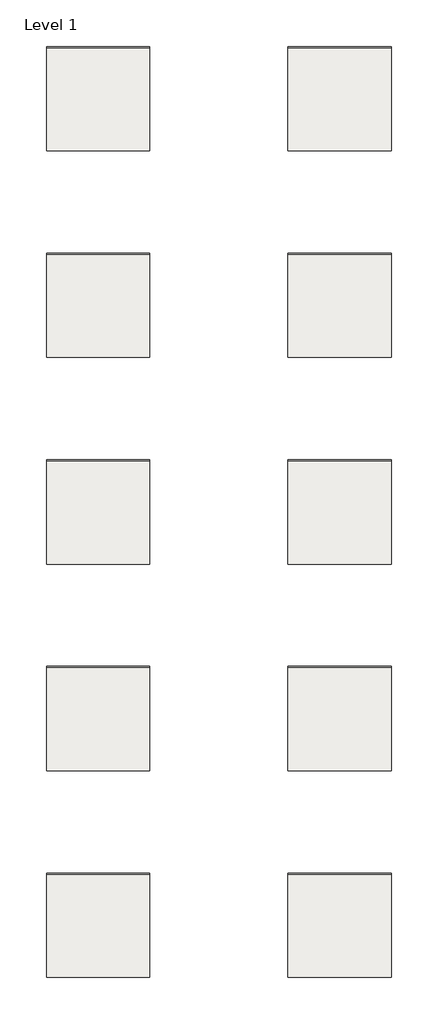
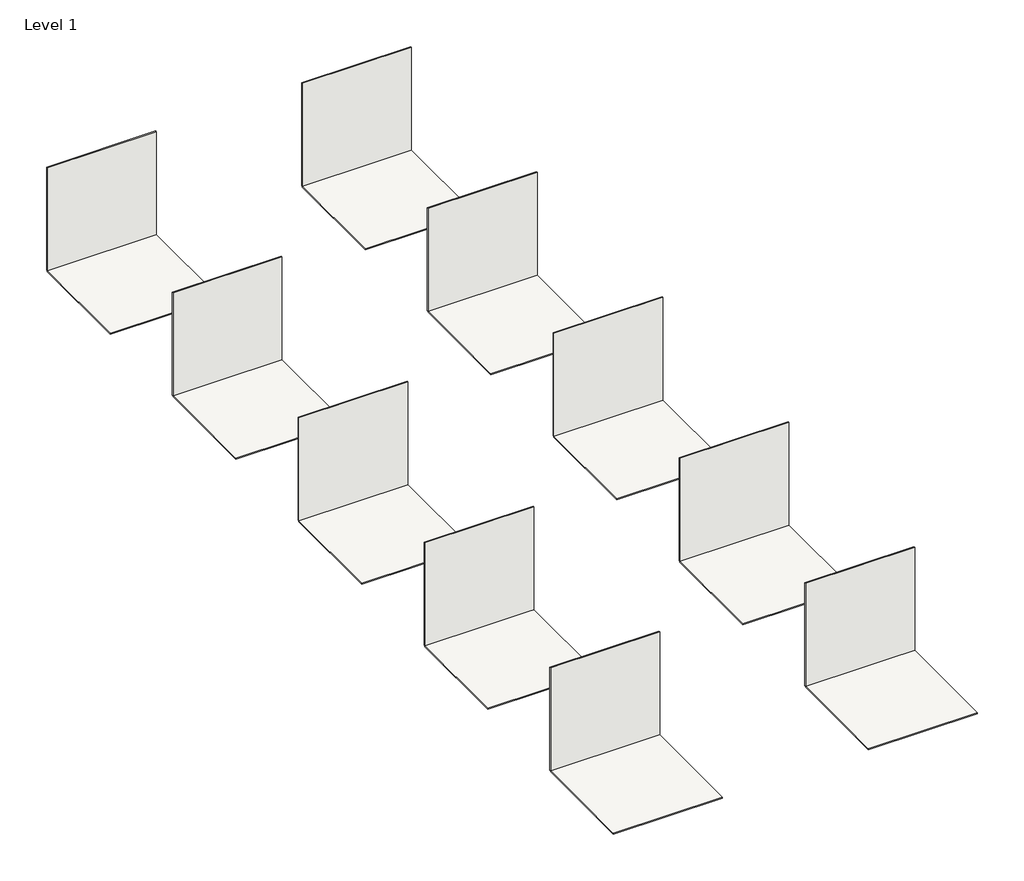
# One storey: 20 coverings.
"""IFC4 building model written with IfcOpenShell, lengths in millimetres."""

from ifc_helpers import new_model, si_unit, frame, origin, origin_with_axes, place, context, project, spatial, polyline, outline, extrude, element, save

model = new_model("IFC4")

# Units and contexts
model_context = context("Model", 3, world=origin())
ifc_project = project(units=[si_unit("LENGTHUNIT", "METRE", prefix="MILLI")], contexts=[model_context])

# Site, building, storey
site = spatial("IfcSite", under=ifc_project)
building = spatial("IfcBuilding", under=site)
storey = spatial("IfcBuildingStorey", under=building, Name="Level 1", Elevation=0.0)

# Coverings
placement = place(None, origin())
element("IfcCovering", 1, ObjectType="REVIGRES-TRAVERTINO CLASSIC-BASE-59.2x59.2-MATTRECT-OFFWHITE", at=placement, inside=storey, context=model_context, shape_type="SweptSolid", body=[
    extrude(outline(polyline([(14667.386446, 2342.0116985), (13667.386446, 2342.0116985), (13667.386446, 2351.8116985), (14667.386446, 2351.8116985), (14667.386446, 2342.0116985)])), origin_with_axes(), (0.0, 0.0, 1.0), 1000.0),
])
element("IfcCovering", 2, ObjectType="REVIGRES-TRAVERTINO CLASSIC-BASE-59.2x59.2-MATTRECT-OFFWHITE", at=placement, inside=storey, context=model_context, shape_type="SweptSolid", body=[
    extrude(outline(polyline([(14667.386446, 2342.0116985), (14667.386446, 1342.6616985), (13667.386446, 1342.6616985), (13667.386446, 2342.0116985), (14667.386446, 2342.0116985)])), frame((0.0, 0.0, -9.8), z_axis=(0.0, 0.0, 1.0), x_axis=(1.0, 0.0, 0.0)), (0.0, 0.0, 1.0), 9.8),
])
element("IfcCovering", 3, ObjectType="REVIGRES-TRAVERTINO CLASSIC-BASE-88.9x88.9-MATT RECT-OFFWHITE", at=placement, inside=storey, context=model_context, shape_type="SweptSolid", body=[
    extrude(outline(polyline([(14667.386446, -1658.3383015), (13667.386446, -1658.3383015), (13667.386446, -1647.8383015), (14667.386446, -1647.8383015), (14667.386446, -1658.3383015)])), origin_with_axes(), (0.0, 0.0, 1.0), 1000.0),
])
element("IfcCovering", 4, ObjectType="REVIGRES-TRAVERTINO CLASSIC-BASE-88.9x88.9-MATT RECT-OFFWHITE", at=placement, inside=storey, context=model_context, shape_type="SweptSolid", body=[
    extrude(outline(polyline([(14667.386446, -1658.3383015), (14667.386446, -2657.9883015), (13667.386446, -2657.9883015), (13667.386446, -1658.3383015), (14667.386446, -1658.3383015)])), frame((0.0, 0.0, -10.5), z_axis=(0.0, 0.0, 1.0), x_axis=(1.0, 0.0, 0.0)), (0.0, 0.0, 1.0), 10.5),
])
element("IfcCovering", 5, ObjectType="REVIGRES-TRAVERTINO CLASSIC-BASE-59.2x118.6-MATT RECT-OFFWHITE", at=placement, inside=storey, context=model_context, shape_type="SweptSolid", body=[
    extrude(outline(polyline([(14667.386446, 342.0116985), (13667.386446, 342.0116985), (13667.386446, 351.8116985), (14667.386446, 351.8116985), (14667.386446, 342.0116985)])), origin_with_axes(), (0.0, 0.0, 1.0), 1000.0),
])
element("IfcCovering", 6, ObjectType="REVIGRES-TRAVERTINO CLASSIC-BASE-59.2x118.6-MATT RECT-OFFWHITE", at=placement, inside=storey, context=model_context, shape_type="SweptSolid", body=[
    extrude(outline(polyline([(14667.386446, 342.0116985), (14667.386446, -657.3383015), (13667.386446, -657.3383015), (13667.386446, 342.0116985), (14667.386446, 342.0116985)])), frame((0.0, 0.0, -9.8), z_axis=(0.0, 0.0, 1.0), x_axis=(1.0, 0.0, 0.0)), (0.0, 0.0, 1.0), 9.8),
])
element("IfcCovering", 7, ObjectType="REVIGRES-TRAVERTINO CLASSIC-BASE-59.2x59.2-MATT RECT-SAND", at=placement, inside=storey, context=model_context, shape_type="SweptSolid", body=[
    extrude(outline(polyline([(17007.386446, 2342.0116985), (16007.386446, 2342.0116985), (16007.386446, 2351.8116985), (17007.386446, 2351.8116985), (17007.386446, 2342.0116985)])), origin_with_axes(), (0.0, 0.0, 1.0), 1000.0),
])
element("IfcCovering", 8, ObjectType="REVIGRES-TRAVERTINO CLASSIC-BASE-59.2x59.2-MATT RECT-SAND", at=placement, inside=storey, context=model_context, shape_type="SweptSolid", body=[
    extrude(outline(polyline([(17007.386446, 2342.0116985), (17007.386446, 1342.6616985), (16007.386446, 1342.6616985), (16007.386446, 2342.0116985), (17007.386446, 2342.0116985)])), frame((0.0, 0.0, -9.8), z_axis=(0.0, 0.0, 1.0), x_axis=(1.0, 0.0, 0.0)), (0.0, 0.0, 1.0), 9.8),
])
element("IfcCovering", 9, ObjectType="REVIGRES-TRAVERTINO CLASSIC-BASE-88.9x88.9-MATT RECT-SAND", at=placement, inside=storey, context=model_context, shape_type="SweptSolid", body=[
    extrude(outline(polyline([(17007.386446, -1658.3383015), (16007.386446, -1658.3383015), (16007.386446, -1647.8383015), (17007.386446, -1647.8383015), (17007.386446, -1658.3383015)])), origin_with_axes(), (0.0, 0.0, 1.0), 1000.0),
])
element("IfcCovering", 10, ObjectType="REVIGRES-TRAVERTINO CLASSIC-BASE-88.9x88.9-MATT RECT-SAND", at=placement, inside=storey, context=model_context, shape_type="SweptSolid", body=[
    extrude(outline(polyline([(17007.386446, -1658.3383015), (17007.386446, -2657.9883015), (16007.386446, -2657.9883015), (16007.386446, -1658.3383015), (17007.386446, -1658.3383015)])), frame((0.0, 0.0, -10.5), z_axis=(0.0, 0.0, 1.0), x_axis=(1.0, 0.0, 0.0)), (0.0, 0.0, 1.0), 10.5),
])
element("IfcCovering", 11, ObjectType="REVIGRES-TRAVERTINO CLASSIC-BASE-59.2x118.6-MATT RECT-SAND", at=placement, inside=storey, context=model_context, shape_type="SweptSolid", body=[
    extrude(outline(polyline([(17007.386446, 342.0116985), (16007.386446, 342.0116985), (16007.386446, 351.8116985), (17007.386446, 351.8116985), (17007.386446, 342.0116985)])), origin_with_axes(), (0.0, 0.0, 1.0), 1000.0),
])
element("IfcCovering", 12, ObjectType="REVIGRES-TRAVERTINO CLASSIC-BASE-59.2x118.6-MATT RECT-SAND", at=placement, inside=storey, context=model_context, shape_type="SweptSolid", body=[
    extrude(outline(polyline([(17007.386446, 342.0116985), (17007.386446, -657.3383015), (16007.386446, -657.3383015), (16007.386446, 342.0116985), (17007.386446, 342.0116985)])), frame((0.0, 0.0, -9.8), z_axis=(0.0, 0.0, 1.0), x_axis=(1.0, 0.0, 0.0)), (0.0, 0.0, 1.0), 9.8),
])
element("IfcCovering", 13, ObjectType="REVIGRES-TRAVERTINO CLASSIC-BASE-118.6x118.6-MATT RECT-OFFWHITE", at=placement, inside=storey, context=model_context, shape_type="SweptSolid", body=[
    extrude(outline(polyline([(14667.386446, -3657.9883015), (13667.386446, -3657.9883015), (13667.386446, -3648.1883015), (14667.386446, -3648.1883015), (14667.386446, -3657.9883015)])), origin_with_axes(), (0.0, 0.0, 1.0), 1000.0),
])
element("IfcCovering", 14, ObjectType="REVIGRES-TRAVERTINO CLASSIC-BASE-118.6x118.6-MATT RECT-OFFWHITE", at=placement, inside=storey, context=model_context, shape_type="SweptSolid", body=[
    extrude(outline(polyline([(14667.386446, -3657.9883015), (14667.386446, -4657.9883015), (13667.386446, -4657.9883015), (13667.386446, -3657.9883015), (14667.386446, -3657.9883015)])), frame((0.0, 0.0, -9.8), z_axis=(0.0, 0.0, 1.0), x_axis=(1.0, 0.0, 0.0)), (0.0, 0.0, 1.0), 9.8),
])
element("IfcCovering", 15, ObjectType="REVIGRES-TRAVERTINO CLASSIC-BASE-118.6x118.6-MATT RECT-SAND", at=placement, inside=storey, context=model_context, shape_type="SweptSolid", body=[
    extrude(outline(polyline([(17007.386446, -3657.9883015), (16007.386446, -3657.9883015), (16007.386446, -3648.1883015), (17007.386446, -3648.1883015), (17007.386446, -3657.9883015)])), origin_with_axes(), (0.0, 0.0, 1.0), 1000.0),
])
element("IfcCovering", 16, ObjectType="REVIGRES-TRAVERTINO CLASSIC-BASE-118.6x118.6-MATT RECT-SAND", at=placement, inside=storey, context=model_context, shape_type="SweptSolid", body=[
    extrude(outline(polyline([(17007.386446, -3657.9883015), (17007.386446, -4657.9883015), (16007.386446, -4657.9883015), (16007.386446, -3657.9883015), (17007.386446, -3657.9883015)])), frame((0.0, 0.0, -9.8), z_axis=(0.0, 0.0, 1.0), x_axis=(1.0, 0.0, 0.0)), (0.0, 0.0, 1.0), 9.8),
])
element("IfcCovering", 17, ObjectType="REVIGRES-TRAVERTINO CLASSIC-BASE-118.6x277.8-MATT RECT-OFFWHITE", at=placement, inside=storey, context=model_context, shape_type="SweptSolid", body=[
    extrude(outline(polyline([(14667.386446, -5657.9883015), (13667.386446, -5657.9883015), (13667.386446, -5648.1883015), (14667.386446, -5648.1883015), (14667.386446, -5657.9883015)])), origin_with_axes(), (0.0, 0.0, 1.0), 1000.0),
])
element("IfcCovering", 18, ObjectType="REVIGRES-TRAVERTINO CLASSIC-BASE-118.6x277.8-MATT RECT-OFFWHITE", at=placement, inside=storey, context=model_context, shape_type="SweptSolid", body=[
    extrude(outline(polyline([(14667.386446, -5657.9883015), (14667.386446, -6657.9883015), (13667.386446, -6657.9883015), (13667.386446, -5657.9883015), (14667.386446, -5657.9883015)])), frame((0.0, 0.0, -9.8), z_axis=(0.0, 0.0, 1.0), x_axis=(1.0, 0.0, 0.0)), (0.0, 0.0, 1.0), 9.8),
])
element("IfcCovering", 19, ObjectType="REVIGRES-TRAVERTINO CLASSIC-BASE-118.6x277.8-MATT RECT-SAND", at=placement, inside=storey, context=model_context, shape_type="SweptSolid", body=[
    extrude(outline(polyline([(17007.386446, -5657.9883015), (16007.386446, -5657.9883015), (16007.386446, -5648.1883015), (17007.386446, -5648.1883015), (17007.386446, -5657.9883015)])), origin_with_axes(), (0.0, 0.0, 1.0), 1000.0),
])
element("IfcCovering", 20, ObjectType="REVIGRES-TRAVERTINO CLASSIC-BASE-118.6x277.8-MATT RECT-SAND", at=placement, inside=storey, context=model_context, shape_type="SweptSolid", body=[
    extrude(outline(polyline([(17007.386446, -5657.9883015), (17007.386446, -6657.9883015), (16007.386446, -6657.9883015), (16007.386446, -5657.9883015), (17007.386446, -5657.9883015)])), frame((0.0, 0.0, -9.8), z_axis=(0.0, 0.0, 1.0), x_axis=(1.0, 0.0, 0.0)), (0.0, 0.0, 1.0), 9.8),
])

save(model, "model.ifc")
